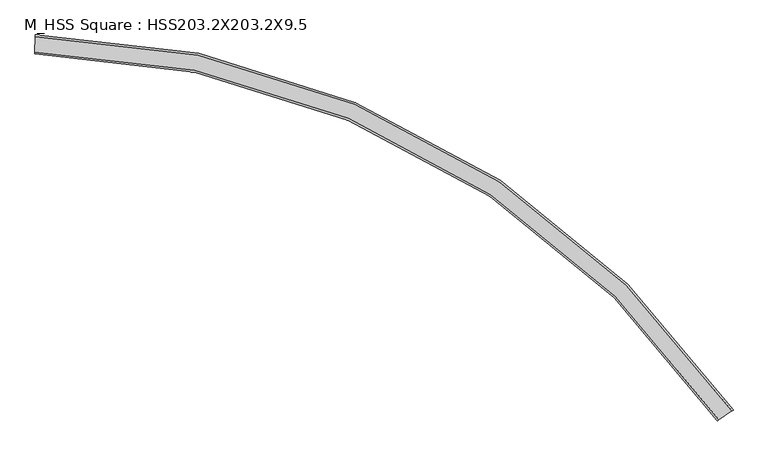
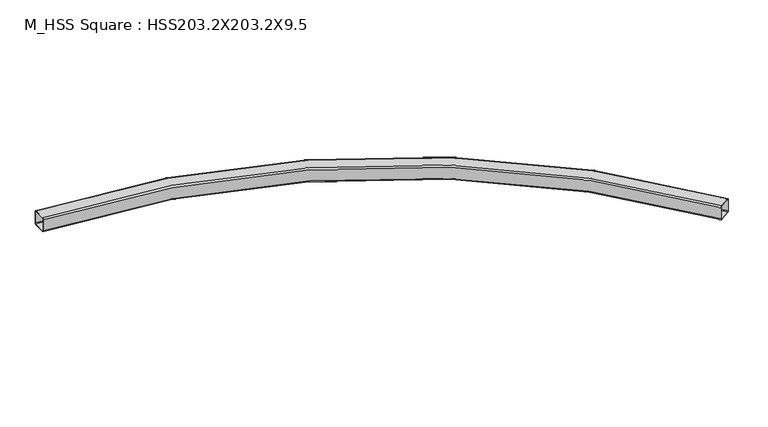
"""IFC4 building model written with IfcOpenShell, lengths in millimetres: beam geometry, M_HSS Square : HSS203.2X203.2X9.5."""

from ifc_helpers import new_model, si_unit, point, frame, origin, place, context, project, spatial, polyline, circle_curve, ellipse_curve, trimmed, source, transform, mapped, element, save
from ifc_brep_helpers import plane_surface, cylinder_surface, revolved_surface, advanced_brep


def m_hss_square_hss203_2x203_2x9_5_16dc1c03(model_context):
    return source(origin(), model_context, "Body", "AdvancedBrep", [
        advanced_brep(
        [(168.5403422, 99.9637691, 82.44), (168.5403422, 99.9637691, -82.44), (168.1929105, 80.9069359, -101.5), (165.1874259, -83.9456693, -101.5), (164.8399942, -103.0025025, -82.44), (164.8399942, -103.0025025, 82.44), (165.1874259, -83.9456693, 101.5), (168.1929105, 80.9069359, 101.5), (165.1874259, -83.9456693, 91.97), (165.01371, -93.4740859, 82.44), (165.01371, -93.4740859, -82.44), (165.1874259, -83.9456693, -91.97), (168.1929105, 80.9069359, -91.97), (168.3666264, 90.4353525, -82.44), (168.3666264, 90.4353525, 82.44), (168.1929105, 80.9069359, 91.97), (7617.1849213, -3903.5461216, 82.44), (7601.4827374, -3914.350057, 101.5), (7465.6497843, -4007.8103333, 101.5), (7449.9476004, -4018.6142687, 82.44), (7449.9476004, -4018.6142687, -82.44), (7465.6497843, -4007.8103333, -101.5), (7601.4827374, -3914.350057, -101.5), (7617.1849213, -3903.5461216, -82.44), (7465.6497843, -4007.8103333, 91.97), (7601.4827374, -3914.350057, 91.97), (7609.3338293, -3908.9480893, 82.44), (7609.3338293, -3908.9480893, -82.44), (7601.4827374, -3914.350057, -91.97), (7465.6497843, -4007.8103333, -91.97), (7457.7986923, -4013.212301, -82.44), (7457.7986923, -4013.212301, 82.44)],
        [
            (0, 1),
            (1, 2, circle_curve(frame((168.1929105, 80.9069359, -82.44), z_axis=(-0.9998338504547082, 0.018228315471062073, 0.0), x_axis=(-0.018228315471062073, -0.9998338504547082, 0.0)), 19.06)),
            (2, 3),
            (3, 4, circle_curve(frame((165.1874259, -83.9456693, -82.44), z_axis=(-0.9998338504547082, 0.018228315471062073, 0.0), x_axis=(-0.018228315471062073, -0.9998338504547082, 0.0)), 19.06)),
            (4, 5),
            (5, 6, circle_curve(frame((165.1874259, -83.9456693, 82.44), z_axis=(-0.9998338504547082, 0.018228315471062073, 0.0), x_axis=(-0.018228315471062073, -0.9998338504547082, 0.0)), 19.06)),
            (6, 7),
            (7, 0, circle_curve(frame((168.1929105, 80.9069359, 82.44), z_axis=(-0.9998338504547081, 0.018228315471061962, 0.0), x_axis=(-0.018228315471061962, -0.9998338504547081, 0.0)), 19.06)),
            (8, 9, circle_curve(frame((165.1874259, -83.9456693, 82.44), z_axis=(0.9998338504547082, -0.018228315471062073, 0.0), x_axis=(-0.018228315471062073, -0.9998338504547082, 0.0)), 9.53)),
            (9, 10),
            (10, 11, circle_curve(frame((165.1874259, -83.9456693, -82.44), z_axis=(0.9998338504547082, -0.018228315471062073, 0.0), x_axis=(-0.018228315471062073, -0.9998338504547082, 0.0)), 9.53)),
            (11, 12),
            (12, 13, circle_curve(frame((168.1929105, 80.9069359, -82.44), z_axis=(0.9998338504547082, -0.018228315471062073, 0.0), x_axis=(-0.018228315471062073, -0.9998338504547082, 0.0)), 9.53)),
            (13, 14),
            (14, 15, circle_curve(frame((168.1929105, 80.9069359, 82.44), z_axis=(0.9998338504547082, -0.018228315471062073, 0.0), x_axis=(-0.018228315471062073, -0.9998338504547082, 0.0)), 9.53)),
            (15, 8),
            (16, 17, circle_curve(frame((7601.4827374, -3914.350057, 82.44), z_axis=(0.5668381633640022, -0.823829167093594, 0.0), x_axis=(-0.823829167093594, -0.5668381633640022, 0.0)), 19.06)),
            (17, 18),
            (18, 19, circle_curve(frame((7465.6497843, -4007.8103333, 82.44), z_axis=(0.5668381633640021, -0.823829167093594, 0.0), x_axis=(-0.823829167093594, -0.5668381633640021, 0.0)), 19.06)),
            (19, 20),
            (20, 21, circle_curve(frame((7465.6497843, -4007.8103333, -82.44), z_axis=(0.5668381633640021, -0.823829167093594, 0.0), x_axis=(-0.823829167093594, -0.5668381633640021, 0.0)), 19.06)),
            (21, 22),
            (22, 23, circle_curve(frame((7601.4827374, -3914.350057, -82.44), z_axis=(0.5668381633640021, -0.823829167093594, 0.0), x_axis=(-0.823829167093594, -0.5668381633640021, 0.0)), 19.06)),
            (23, 16),
            (24, 25),
            (25, 26, circle_curve(frame((7601.4827374, -3914.350057, 82.44), z_axis=(-0.5668381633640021, 0.823829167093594, 0.0), x_axis=(-0.823829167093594, -0.5668381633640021, 0.0)), 9.53)),
            (26, 27),
            (27, 28, circle_curve(frame((7601.4827374, -3914.350057, -82.44), z_axis=(-0.5668381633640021, 0.823829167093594, 0.0), x_axis=(-0.823829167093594, -0.5668381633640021, 0.0)), 9.53)),
            (28, 29),
            (29, 30, circle_curve(frame((7465.6497843, -4007.8103333, -82.44), z_axis=(-0.5668381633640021, 0.823829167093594, 0.0), x_axis=(-0.823829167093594, -0.5668381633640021, 0.0)), 9.53)),
            (30, 31),
            (31, 24, circle_curve(frame((7465.6497843, -4007.8103333, 82.44), z_axis=(-0.5668381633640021, 0.823829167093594, 0.0), x_axis=(-0.823829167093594, -0.5668381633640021, 0.0)), 9.53)),
            (7, 17, circle_curve(frame((0.0, -9144.5733676, 101.5), z_axis=(0.0, 0.0, -1.0), x_axis=(0.8332810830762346, 0.5528495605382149, 0.0)), 9227.0133676)),
            (16, 0, circle_curve(frame((0.0, -9144.5733676, 82.44), z_axis=(0.0, 0.0, 1.0), x_axis=(0.8332810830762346, 0.5528495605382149, 0.0)), 9246.0733676)),
            (6, 18, circle_curve(frame((0.0, -9144.5733676, 101.5), z_axis=(0.0, 0.0, -1.0), x_axis=(0.8332810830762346, 0.5528495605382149, 0.0)), 9062.1333676)),
            (5, 19, circle_curve(frame((0.0, -9144.5733676, 82.44), z_axis=(0.0, 0.0, -1.0), x_axis=(0.8332810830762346, 0.5528495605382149, 0.0)), 9043.0733676)),
            (4, 20, circle_curve(frame((0.0, -9144.5733676, -82.44), z_axis=(0.0, 0.0, -1.0), x_axis=(0.8332810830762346, 0.5528495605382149, 0.0)), 9043.0733676)),
            (3, 21, circle_curve(frame((0.0, -9144.5733676, -101.5), z_axis=(0.0, 0.0, -1.0), x_axis=(0.8332810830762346, 0.5528495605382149, 0.0)), 9062.1333676)),
            (2, 22, circle_curve(frame((0.0, -9144.5733676, -101.5), z_axis=(0.0, 0.0, -1.0), x_axis=(0.8332810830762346, 0.5528495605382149, 0.0)), 9227.0133676)),
            (1, 23, circle_curve(frame((0.0, -9144.5733676, -82.44), z_axis=(0.0, 0.0, -1.0), x_axis=(0.8332810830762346, 0.5528495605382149, 0.0)), 9246.0733676)),
            (15, 25, circle_curve(frame((0.0, -9144.5733676, 91.97), z_axis=(0.0, 0.0, -1.0), x_axis=(0.8332810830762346, 0.5528495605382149, 0.0)), 9227.0133676)),
            (24, 8, circle_curve(frame((0.0, -9144.5733676, 91.97), z_axis=(0.0, 0.0, 1.0), x_axis=(0.8332810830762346, 0.5528495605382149, 0.0)), 9062.1333676)),
            (14, 26, circle_curve(frame((0.0, -9144.5733676, 82.44), z_axis=(0.0, 0.0, -1.0), x_axis=(0.8332810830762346, 0.5528495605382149, 0.0)), 9236.5433676)),
            (13, 27, circle_curve(frame((0.0, -9144.5733676, -82.44), z_axis=(0.0, 0.0, -1.0), x_axis=(0.8332810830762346, 0.5528495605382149, 0.0)), 9236.5433676)),
            (12, 28, circle_curve(frame((0.0, -9144.5733676, -91.97), z_axis=(0.0, 0.0, -1.0), x_axis=(0.8332810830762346, 0.5528495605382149, 0.0)), 9227.0133676)),
            (11, 29, circle_curve(frame((0.0, -9144.5733676, -91.97), z_axis=(0.0, 0.0, -1.0), x_axis=(0.8332810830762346, 0.5528495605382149, 0.0)), 9062.1333676)),
            (10, 30, circle_curve(frame((0.0, -9144.5733676, -82.44), z_axis=(0.0, 0.0, -1.0), x_axis=(0.8332810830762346, 0.5528495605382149, 0.0)), 9052.6033676)),
            (9, 31, circle_curve(frame((0.0, -9144.5733676, 82.44), z_axis=(0.0, 0.0, -1.0), x_axis=(0.8332810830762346, 0.5528495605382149, 0.0)), 9052.6033676)),
        ],
        [
            plane_surface(frame((166.6901682, -1.5193667, 0.0), z_axis=(-0.999833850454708, 0.018228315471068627, 0.0), x_axis=(0.0, 0.0, 1.0))),
            plane_surface(frame((7533.5662608, -3961.0801951, 0.0), z_axis=(0.5668381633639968, -0.8238291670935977, 0.0), x_axis=(0.0, 0.0, 1.0))),
            revolved_surface(trimmed(ellipse_curve(frame((7688.6956925, -4043.4230822, 82.44), z_axis=(0.5528495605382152, -0.8332810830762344, 0.0), x_axis=(-0.8332810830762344, -0.5528495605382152, 0.0)), 19.06, 19.06), [point((7704.5780299, -4032.8857696, 82.44))], [point((7688.6956925, -4043.4230822, 101.5))], True, "CARTESIAN"), (0.0, -9144.5733676, 0.0), (0.0, 0.0, 1.0)),
            plane_surface(frame((0.0, -9144.5733676, 101.5), z_axis=(0.0, 0.0, 1.0), x_axis=(0.8332810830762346, 0.5528495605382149, 0.0))),
            revolved_surface(trimmed(ellipse_curve(frame((7551.3043075, -4134.5769178, 82.44), z_axis=(0.5528495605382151, -0.8332810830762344, 0.0), x_axis=(-0.8332810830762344, -0.5528495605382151, 0.0)), 19.06, 19.06), [point((7551.3043075, -4134.5769178, 101.5))], [point((7535.4219701, -4145.1142304, 82.44))], True, "CARTESIAN"), (0.0, -9144.5733676, 0.0), (0.0, 0.0, 1.0)),
            revolved_surface(polyline([(7535.42197009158, -4145.114230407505, 82.44), (7535.42197009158, -4145.114230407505, -82.44)]), (0.0, -9144.5733676, 0.0), (0.0, 0.0, 1.0)),
            revolved_surface(trimmed(ellipse_curve(frame((7551.3043075, -4134.5769178, -82.44), z_axis=(0.5528495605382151, -0.8332810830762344, 0.0), x_axis=(-0.8332810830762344, -0.5528495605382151, 0.0)), 19.06, 19.06), [point((7535.4219701, -4145.1142304, -82.44))], [point((7551.3043075, -4134.5769178, -101.5))], True, "CARTESIAN"), (0.0, -9144.5733676, 0.0), (0.0, 0.0, 1.0)),
            plane_surface(frame((0.0, -9144.5733676, -101.5), z_axis=(0.0, 0.0, -1.0), x_axis=(0.8332810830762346, 0.5528495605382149, 0.0))),
            revolved_surface(trimmed(ellipse_curve(frame((7688.6956925, -4043.4230822, -82.44), z_axis=(0.5528495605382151, -0.8332810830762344, 0.0), x_axis=(-0.8332810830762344, -0.5528495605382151, 0.0)), 19.06, 19.06), [point((7688.6956925, -4043.4230822, -101.5))], [point((7704.5780299, -4032.8857696, -82.44))], True, "CARTESIAN"), (0.0, -9144.5733676, 0.0), (0.0, 0.0, 1.0)),
            cylinder_surface(frame((0.0, -9144.5733676, 0.0), z_axis=(0.0, 0.0, 1.0), x_axis=(0.8332810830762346, 0.5528495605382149, 0.0)), 9246.0733676),
            plane_surface(frame((0.0, -9144.5733676, 91.97), z_axis=(0.0, 0.0, -1.0), x_axis=(0.8332810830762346, 0.5528495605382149, 0.0))),
            revolved_surface(trimmed(ellipse_curve(frame((7688.6956925, -4043.4230822, 82.44), z_axis=(-0.5528495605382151, 0.8332810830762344, 0.0), x_axis=(-0.8332810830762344, -0.5528495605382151, 0.0)), 9.53, 9.53), [point((7688.6956925, -4043.4230822, 91.97))], [point((7696.6368612, -4038.1544259, 82.44))], True, "CARTESIAN"), (0.0, -9144.5733676, 0.0), (0.0, 0.0, 1.0)),
            revolved_surface(polyline([(7696.6368612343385, -4038.1544259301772, 82.44), (7696.6368612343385, -4038.1544259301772, -82.44)]), (0.0, -9144.5733676, 0.0), (0.0, 0.0, 1.0)),
            revolved_surface(trimmed(ellipse_curve(frame((7688.6956925, -4043.4230822, -82.44), z_axis=(-0.5528495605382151, 0.8332810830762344, 0.0), x_axis=(-0.8332810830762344, -0.5528495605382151, 0.0)), 9.53, 9.53), [point((7696.6368612, -4038.1544259, -82.44))], [point((7688.6956925, -4043.4230822, -91.97))], True, "CARTESIAN"), (0.0, -9144.5733676, 0.0), (0.0, 0.0, 1.0)),
            plane_surface(frame((0.0, -9144.5733676, -91.97), z_axis=(0.0, 0.0, 1.0), x_axis=(0.8332810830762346, 0.5528495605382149, 0.0))),
            revolved_surface(trimmed(ellipse_curve(frame((7551.3043075, -4134.5769178, -82.44), z_axis=(-0.5528495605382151, 0.8332810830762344, 0.0), x_axis=(-0.8332810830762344, -0.5528495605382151, 0.0)), 9.53, 9.53), [point((7551.3043075, -4134.5769178, -91.97))], [point((7543.3631388, -4139.8455741, -82.44))], True, "CARTESIAN"), (0.0, -9144.5733676, 0.0), (0.0, 0.0, 1.0)),
            cylinder_surface(frame((0.0, -9144.5733676, 0.0), z_axis=(0.0, 0.0, 1.0), x_axis=(0.8332810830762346, 0.5528495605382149, 0.0)), 9052.6033676),
            revolved_surface(trimmed(ellipse_curve(frame((7551.3043075, -4134.5769178, 82.44), z_axis=(-0.5528495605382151, 0.8332810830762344, 0.0), x_axis=(-0.8332810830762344, -0.5528495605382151, 0.0)), 9.53, 9.53), [point((7543.3631388, -4139.8455741, 82.44))], [point((7551.3043075, -4134.5769178, 91.97))], True, "CARTESIAN"), (0.0, -9144.5733676, 0.0), (0.0, 0.0, 1.0)),
        ],
        [
            (0, [[1, 2, 3, 4, 5, 6, 7, 8], [9, 10, 11, 12, 13, 14, 15, 16]]),
            (1, [[17, 18, 19, 20, 21, 22, 23, 24], [25, 26, 27, 28, 29, 30, 31, 32]]),
            (2, [[33, -17, 34, -8]]),
            (3, [[35, -18, -33, -7]]),
            (4, [[36, -19, -35, -6]]),
            (5, [[37, -20, -36, -5]]),
            (6, [[38, -21, -37, -4]]),
            (7, [[39, -22, -38, -3]]),
            (8, [[40, -23, -39, -2]]),
            (9, [[-34, -24, -40, -1]]),
            (10, [[41, -25, 42, -16]]),
            (11, [[43, -26, -41, -15]]),
            (12, [[44, -27, -43, -14]]),
            (13, [[45, -28, -44, -13]]),
            (14, [[46, -29, -45, -12]]),
            (15, [[47, -30, -46, -11]]),
            (16, [[48, -31, -47, -10]]),
            (17, [[-42, -32, -48, -9]]),
        ],
    ),
    ])


if __name__ == "__main__":
    model = new_model("IFC4")
    model_context = context("Model", 3, world=origin())
    ifc_project = project(units=[si_unit("LENGTHUNIT", "METRE", prefix="MILLI")], contexts=[model_context])
    site = spatial("IfcSite", under=ifc_project)
    building = spatial("IfcBuilding", under=site)
    placement = place(None, origin())
    m_hss_square_hss203_2x203_2x9_5_shape = m_hss_square_hss203_2x203_2x9_5_16dc1c03(model_context)
    element("IfcBeam", 1, ObjectType="M_HSS Square : HSS203.2X203.2X9.5", at=placement, inside=building, context=model_context, shape_type="MappedRepresentation", body=[
        mapped(m_hss_square_hss203_2x203_2x9_5_shape, transform((0.0, 0.0, 0.0), x_axis=(1.0, 0.0, 0.0), y_axis=(0.0, 1.0, 0.0), z_axis=(0.0, 0.0, 1.0))),
    ])
    save(model, "model.ifc")
